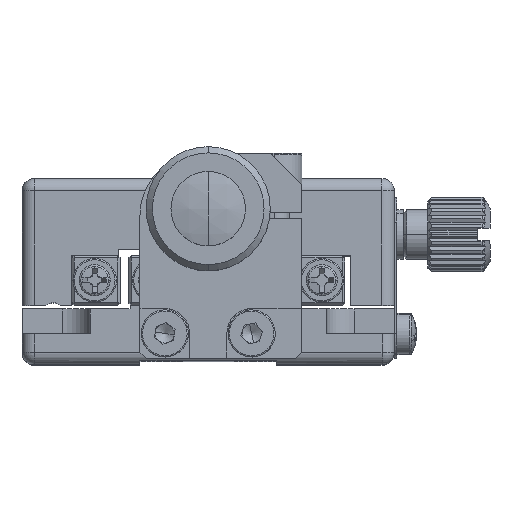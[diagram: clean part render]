
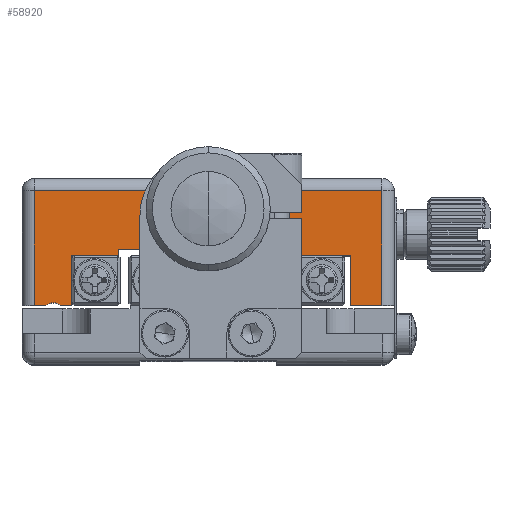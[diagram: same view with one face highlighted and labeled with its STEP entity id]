
A CAD part, top view. The second image highlights one B-rep face of the part: STEP entity #58920.
In plain terms, the highlighted planar face has unit normal (0, 0, 1).
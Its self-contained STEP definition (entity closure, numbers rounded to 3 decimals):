
#1519 = CARTESIAN_POINT ( 'NONE',  ( -14.161, 3.472, 15. ) ) ;
#3720 = PLANE ( 'NONE',  #21244 ) ;
#3995 = VERTEX_POINT ( 'NONE', #75709 ) ;
#4015 = LINE ( 'NONE', #50613, #80662 ) ;
#4046 = DIRECTION ( 'NONE',  ( 0., 0., -1. ) ) ;
#5016 = CARTESIAN_POINT ( 'NONE',  ( 7.039, -1.228, 15. ) ) ;
#5424 = DIRECTION ( 'NONE',  ( -1., 0., 0. ) ) ;
#6338 = DIRECTION ( 'NONE',  ( 1., 0., 0. ) ) ;
#6868 = ORIENTED_EDGE ( 'NONE', *, *, #55775, .T. ) ;
#7462 = EDGE_CURVE ( 'NONE', #93640, #3995, #62233, .T. ) ;
#10106 = VERTEX_POINT ( 'NONE', #40611 ) ;
#10150 = CARTESIAN_POINT ( 'NONE',  ( -15.161, 3.472, 15. ) ) ;
#10296 = VERTEX_POINT ( 'NONE', #35389 ) ;
#10448 = ORIENTED_EDGE ( 'NONE', *, *, #73405, .F. ) ;
#10563 = VERTEX_POINT ( 'NONE', #31803 ) ;
#10660 = EDGE_CURVE ( 'NONE', #89920, #13091, #50908, .T. ) ;
#11339 = EDGE_CURVE ( 'NONE', #21136, #35309, #81039, .T. ) ;
#11585 = CARTESIAN_POINT ( 'NONE',  ( -15.161, -5.728, 15. ) ) ;
#12311 = CARTESIAN_POINT ( 'NONE',  ( -11.161, -1.728, 15. ) ) ;
#12451 = DIRECTION ( 'NONE',  ( 0., 1., 0. ) ) ;
#13091 = VERTEX_POINT ( 'NONE', #68368 ) ;
#13575 = CARTESIAN_POINT ( 'NONE',  ( 7.039, -1.728, 15. ) ) ;
#17246 = ORIENTED_EDGE ( 'NONE', *, *, #24905, .F. ) ;
#17625 = DIRECTION ( 'NONE',  ( -1., 0., 0. ) ) ;
#21136 = VERTEX_POINT ( 'NONE', #86864 ) ;
#21244 = AXIS2_PLACEMENT_3D ( 'NONE', #92971, #4046, #55963 ) ;
#21467 = DIRECTION ( 'NONE',  ( 0., -1., 0. ) ) ;
#24905 = EDGE_CURVE ( 'NONE', #41871, #27808, #57121, .T. ) ;
#25115 = ORIENTED_EDGE ( 'NONE', *, *, #82293, .F. ) ;
#27621 = VECTOR ( 'NONE', #48765, 1000. ) ;
#27808 = VERTEX_POINT ( 'NONE', #44685 ) ;
#27827 = DIRECTION ( 'NONE',  ( 0., 1., 0. ) ) ;
#28132 = LINE ( 'NONE', #49846, #69915 ) ;
#28147 = CARTESIAN_POINT ( 'NONE',  ( 13.839, 4.472, 15. ) ) ;
#28523 = EDGE_CURVE ( 'NONE', #39595, #49178, #53226, .T. ) ;
#28861 = LINE ( 'NONE', #47448, #65955 ) ;
#29985 = DIRECTION ( 'NONE',  ( 0., 0., -1. ) ) ;
#30822 = CARTESIAN_POINT ( 'NONE',  ( -7.361, -1.228, 15. ) ) ;
#31626 = DIRECTION ( 'NONE',  ( 0., 0., -1. ) ) ;
#31803 = CARTESIAN_POINT ( 'NONE',  ( -7.361, -1.728, 15. ) ) ;
#32532 = VERTEX_POINT ( 'NONE', #30822 ) ;
#32640 = ORIENTED_EDGE ( 'NONE', *, *, #28523, .T. ) ;
#32744 = FACE_BOUND ( 'NONE', #40971, .T. ) ;
#32773 = CARTESIAN_POINT ( 'NONE',  ( 11.339, -1.728, 15. ) ) ;
#34879 = EDGE_CURVE ( 'NONE', #21136, #10106, #84221, .T. ) ;
#35309 = VERTEX_POINT ( 'NONE', #51615 ) ;
#35389 = CARTESIAN_POINT ( 'NONE',  ( -11.161, -1.728, 15. ) ) ;
#35853 = EDGE_CURVE ( 'NONE', #66203, #39595, #56218, .T. ) ;
#37714 = CARTESIAN_POINT ( 'NONE',  ( -15.161, -5.728, 15. ) ) ;
#38832 = VECTOR ( 'NONE', #27827, 1000. ) ;
#39595 = VERTEX_POINT ( 'NONE', #63180 ) ;
#40611 = CARTESIAN_POINT ( 'NONE',  ( -11.161, -5.728, 15. ) ) ;
#40971 = EDGE_LOOP ( 'NONE', ( #89947, #64699 ) ) ;
#41803 = AXIS2_PLACEMENT_3D ( 'NONE', #74403, #29985, #81841 ) ;
#41871 = VERTEX_POINT ( 'NONE', #81889 ) ;
#41972 = EDGE_CURVE ( 'NONE', #3995, #93640, #92442, .T. ) ;
#44109 = ORIENTED_EDGE ( 'NONE', *, *, #78831, .F. ) ;
#44685 = CARTESIAN_POINT ( 'NONE',  ( 7.039, -1.228, 15. ) ) ;
#47295 = LINE ( 'NONE', #63367, #27621 ) ;
#47448 = CARTESIAN_POINT ( 'NONE',  ( -11.161, -5.728, 15. ) ) ;
#47852 = VECTOR ( 'NONE', #87862, 1000. ) ;
#48096 = CARTESIAN_POINT ( 'NONE',  ( -14.161, -5.728, 15. ) ) ;
#48765 = DIRECTION ( 'NONE',  ( 0., -1., 0. ) ) ;
#48947 = EDGE_CURVE ( 'NONE', #13091, #41871, #75288, .T. ) ;
#49178 = VERTEX_POINT ( 'NONE', #1519 ) ;
#49846 = CARTESIAN_POINT ( 'NONE',  ( 1.839, -1.228, 15. ) ) ;
#50613 = CARTESIAN_POINT ( 'NONE',  ( -7.361, -1.728, 15. ) ) ;
#50735 = DIRECTION ( 'NONE',  ( 0., 0., 1. ) ) ;
#50875 = AXIS2_PLACEMENT_3D ( 'NONE', #95242, #50735, #6338 ) ;
#50908 = LINE ( 'NONE', #32773, #88075 ) ;
#51615 = CARTESIAN_POINT ( 'NONE',  ( -13.261, -5.728, 15. ) ) ;
#51867 = CARTESIAN_POINT ( 'NONE',  ( 11.339, -5.728, 15. ) ) ;
#52430 = FACE_OUTER_BOUND ( 'NONE', #54453, .T. ) ;
#53189 = VECTOR ( 'NONE', #58024, 1000. ) ;
#53226 = LINE ( 'NONE', #10150, #90369 ) ;
#53271 = ORIENTED_EDGE ( 'NONE', *, *, #11339, .F. ) ;
#54453 = EDGE_LOOP ( 'NONE', ( #44109, #25115, #17246, #65566, #59767, #61042, #90963, #32640, #95775, #6868, #53271, #59222, #10448, #89267 ) ) ;
#54941 = DIRECTION ( 'NONE',  ( 0., -1., 0. ) ) ;
#55775 = EDGE_CURVE ( 'NONE', #70883, #35309, #87320, .T. ) ;
#55963 = DIRECTION ( 'NONE',  ( -1., 0., 0. ) ) ;
#56218 = LINE ( 'NONE', #28147, #38832 ) ;
#57121 = LINE ( 'NONE', #5016, #72222 ) ;
#57625 = EDGE_CURVE ( 'NONE', #89920, #66203, #59601, .T. ) ;
#58024 = DIRECTION ( 'NONE',  ( -1., 0., 0. ) ) ;
#58920 = ADVANCED_FACE ( 'NONE', ( #52430, #32744 ), #3720, .F. ) ;
#59222 = ORIENTED_EDGE ( 'NONE', *, *, #34879, .T. ) ;
#59601 = LINE ( 'NONE', #37714, #79393 ) ;
#59767 = ORIENTED_EDGE ( 'NONE', *, *, #10660, .F. ) ;
#61042 = ORIENTED_EDGE ( 'NONE', *, *, #57625, .T. ) ;
#62143 = LINE ( 'NONE', #12311, #79584 ) ;
#62233 = CIRCLE ( 'NONE', #41803, 0.707 ) ;
#62427 = CARTESIAN_POINT ( 'NONE',  ( 13.839, -5.728, 15. ) ) ;
#63180 = CARTESIAN_POINT ( 'NONE',  ( 13.839, 3.472, 15. ) ) ;
#63367 = CARTESIAN_POINT ( 'NONE',  ( -14.161, 4.472, 15. ) ) ;
#64497 = VECTOR ( 'NONE', #93381, 1000. ) ;
#64699 = ORIENTED_EDGE ( 'NONE', *, *, #41972, .T. ) ;
#65566 = ORIENTED_EDGE ( 'NONE', *, *, #48947, .F. ) ;
#65688 = EDGE_CURVE ( 'NONE', #49178, #70883, #47295, .T. ) ;
#65955 = VECTOR ( 'NONE', #54941, 1000. ) ;
#66203 = VERTEX_POINT ( 'NONE', #62427 ) ;
#68368 = CARTESIAN_POINT ( 'NONE',  ( 11.339, -1.728, 15. ) ) ;
#68417 = EDGE_CURVE ( 'NONE', #10563, #10296, #62143, .T. ) ;
#69915 = VECTOR ( 'NONE', #5424, 1000. ) ;
#70883 = VERTEX_POINT ( 'NONE', #48096 ) ;
#72222 = VECTOR ( 'NONE', #12451, 1000. ) ;
#73405 = EDGE_CURVE ( 'NONE', #10296, #10106, #28861, .T. ) ;
#74403 = CARTESIAN_POINT ( 'NONE',  ( -0.161, 1.972, 15. ) ) ;
#75288 = LINE ( 'NONE', #13575, #53189 ) ;
#75709 = CARTESIAN_POINT ( 'NONE',  ( 0.547, 1.972, 15. ) ) ;
#76053 = CARTESIAN_POINT ( 'NONE',  ( -0.161, 1.972, 15. ) ) ;
#77761 = CARTESIAN_POINT ( 'NONE',  ( -0.868, 1.972, 15. ) ) ;
#78831 = EDGE_CURVE ( 'NONE', #32532, #10563, #4015, .T. ) ;
#79214 = DIRECTION ( 'NONE',  ( -1., 0., 0. ) ) ;
#79393 = VECTOR ( 'NONE', #89617, 1000. ) ;
#79584 = VECTOR ( 'NONE', #79214, 1000. ) ;
#80439 = CARTESIAN_POINT ( 'NONE',  ( -15.161, -5.728, 15. ) ) ;
#80662 = VECTOR ( 'NONE', #21467, 1000. ) ;
#81039 = CIRCLE ( 'NONE', #50875, 1. ) ;
#81841 = DIRECTION ( 'NONE',  ( -1., 0., 0. ) ) ;
#81889 = CARTESIAN_POINT ( 'NONE',  ( 7.039, -1.728, 15. ) ) ;
#82293 = EDGE_CURVE ( 'NONE', #27808, #32532, #28132, .T. ) ;
#83491 = DIRECTION ( 'NONE',  ( -1., 0., 0. ) ) ;
#84221 = LINE ( 'NONE', #11585, #64497 ) ;
#86864 = CARTESIAN_POINT ( 'NONE',  ( -12.061, -5.728, 15. ) ) ;
#87320 = LINE ( 'NONE', #80439, #47852 ) ;
#87862 = DIRECTION ( 'NONE',  ( 1., 0., 0. ) ) ;
#88075 = VECTOR ( 'NONE', #92088, 1000. ) ;
#89267 = ORIENTED_EDGE ( 'NONE', *, *, #68417, .F. ) ;
#89617 = DIRECTION ( 'NONE',  ( 1., 0., 0. ) ) ;
#89920 = VERTEX_POINT ( 'NONE', #51867 ) ;
#89947 = ORIENTED_EDGE ( 'NONE', *, *, #7462, .T. ) ;
#90369 = VECTOR ( 'NONE', #17625, 1000. ) ;
#90952 = AXIS2_PLACEMENT_3D ( 'NONE', #76053, #31626, #83491 ) ;
#90963 = ORIENTED_EDGE ( 'NONE', *, *, #35853, .T. ) ;
#92088 = DIRECTION ( 'NONE',  ( 0., 1., 0. ) ) ;
#92442 = CIRCLE ( 'NONE', #90952, 0.707 ) ;
#92971 = CARTESIAN_POINT ( 'NONE',  ( -15.161, 4.472, 15. ) ) ;
#93381 = DIRECTION ( 'NONE',  ( 1., 0., 0. ) ) ;
#93640 = VERTEX_POINT ( 'NONE', #77761 ) ;
#95242 = CARTESIAN_POINT ( 'NONE',  ( -12.661, -6.528, 15. ) ) ;
#95775 = ORIENTED_EDGE ( 'NONE', *, *, #65688, .T. ) ;
